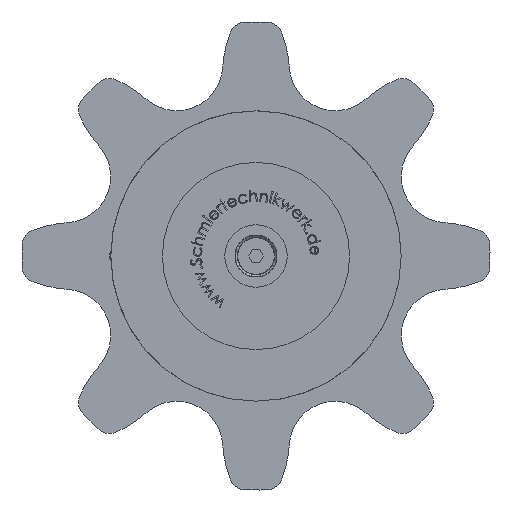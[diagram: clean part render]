
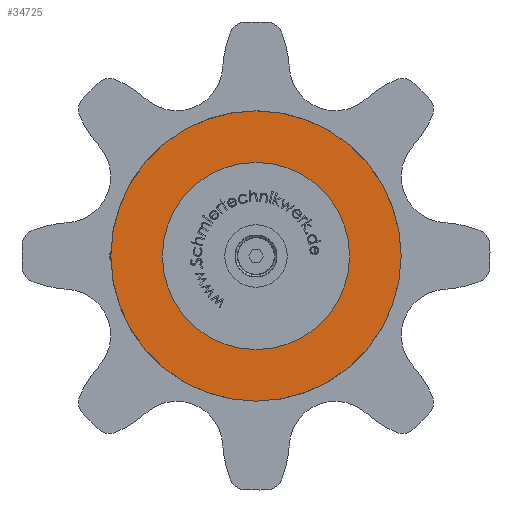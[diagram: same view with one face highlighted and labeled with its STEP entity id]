
A CAD part, front view. The second image highlights one B-rep face of the part: STEP entity #34725.
In plain terms, the highlighted planar face has unit normal (0, -1, 0) by its records, which use the part's own axes.
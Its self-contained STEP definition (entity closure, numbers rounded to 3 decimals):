
#3703 = CIRCLE ( 'NONE', #31568, 46.5 ) ;
#3832 = CARTESIAN_POINT ( 'NONE',  ( 0., -80.7, 0. ) ) ;
#4249 = AXIS2_PLACEMENT_3D ( 'NONE', #9487, #31191, #12508 ) ;
#8217 = ORIENTED_EDGE ( 'NONE', *, *, #31433, .F. ) ;
#9487 = CARTESIAN_POINT ( 'NONE',  ( 0., -80.7, 46.5 ) ) ;
#11893 = EDGE_CURVE ( 'NONE', #22508, #22508, #13024, .T. ) ;
#12508 = DIRECTION ( 'NONE',  ( 0., 0., 1. ) ) ;
#13024 = CIRCLE ( 'NONE', #30640, 14. ) ;
#14829 = FACE_OUTER_BOUND ( 'NONE', #26657, .T. ) ;
#15130 = DIRECTION ( 'NONE',  ( 0., -1., 0. ) ) ;
#15302 = CARTESIAN_POINT ( 'NONE',  ( 0., -80.7, 0. ) ) ;
#15811 = FACE_BOUND ( 'NONE', #20457, .T. ) ;
#15980 = PLANE ( 'NONE',  #4249 ) ;
#18054 = DIRECTION ( 'NONE',  ( 0., 1., 0. ) ) ;
#20457 = EDGE_LOOP ( 'NONE', ( #28301 ) ) ;
#22508 = VERTEX_POINT ( 'NONE', #27687 ) ;
#23860 = CARTESIAN_POINT ( 'NONE',  ( 0., -80.7, -46.5 ) ) ;
#25969 = DIRECTION ( 'NONE',  ( 0., 0., -1. ) ) ;
#26657 = EDGE_LOOP ( 'NONE', ( #8217 ) ) ;
#27687 = CARTESIAN_POINT ( 'NONE',  ( 0., -80.7, -14. ) ) ;
#28301 = ORIENTED_EDGE ( 'NONE', *, *, #11893, .F. ) ;
#30640 = AXIS2_PLACEMENT_3D ( 'NONE', #15302, #15130, #25969 ) ;
#31191 = DIRECTION ( 'NONE',  ( 0., 1., 0. ) ) ;
#31433 = EDGE_CURVE ( 'NONE', #32045, #32045, #3703, .T. ) ;
#31568 = AXIS2_PLACEMENT_3D ( 'NONE', #3832, #18054, #34424 ) ;
#32045 = VERTEX_POINT ( 'NONE', #23860 ) ;
#34424 = DIRECTION ( 'NONE',  ( 0., 0., -1. ) ) ;
#34725 = ADVANCED_FACE ( 'NONE', ( #15811, #14829 ), #15980, .F. ) ;
